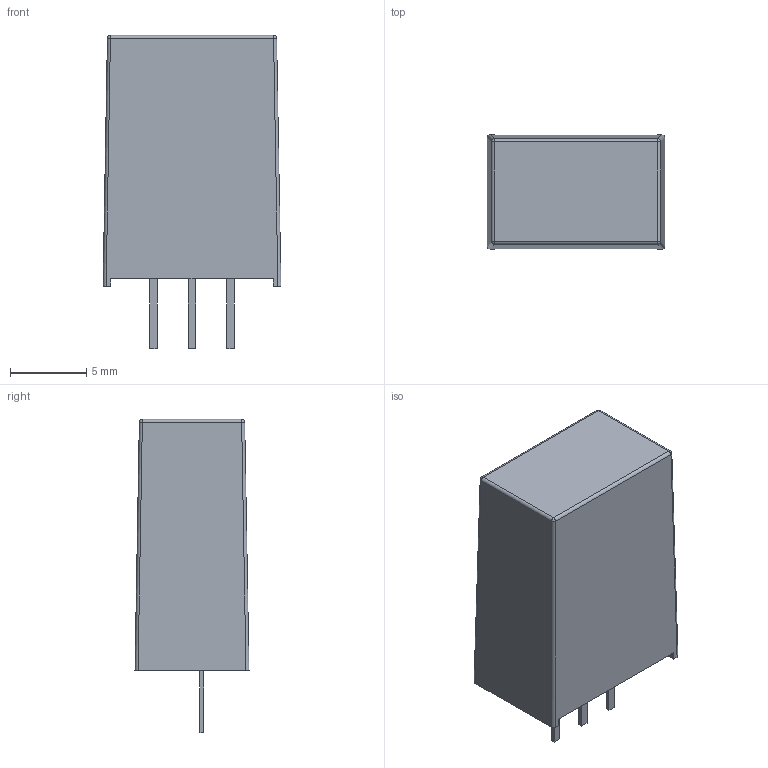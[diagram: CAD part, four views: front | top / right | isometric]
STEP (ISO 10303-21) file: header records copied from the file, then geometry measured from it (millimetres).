
FILE_DESCRIPTION (( 'STEP AP214' ), '1' );
FILE_NAME ('TSN 1.STEP', '2018-10-11T02:40:03', ( 'user' ), ( '' ), 'SwSTEP 2.0', 'SolidWorks 2016', '' );
FILE_SCHEMA (( 'AUTOMOTIVE_DESIGN' ));
Length unit declared in the file: millimetre
Products named in the file (1): TSN 1
Bounding box: 11.7 x 7.5 x 20.6 mm (x, y, z)
Volume: 1319.2 mm3; surface area: 788.1 mm2
Topology: 1 solids, 1 shells, 37 faces, 84 edges, 52 vertices
Faces by surface type: plane 25, cylinder 8, sphere 4
Entity records: 1224 total; most frequent: CARTESIAN_POINT 186, DIRECTION 168, ORIENTED_EDGE 168, EDGE_CURVE 84, LINE 68, VECTOR 68, VERTEX_POINT 52, AXIS2_PLACEMENT_3D 50
